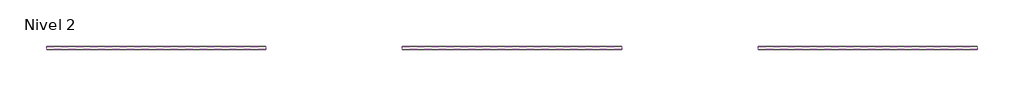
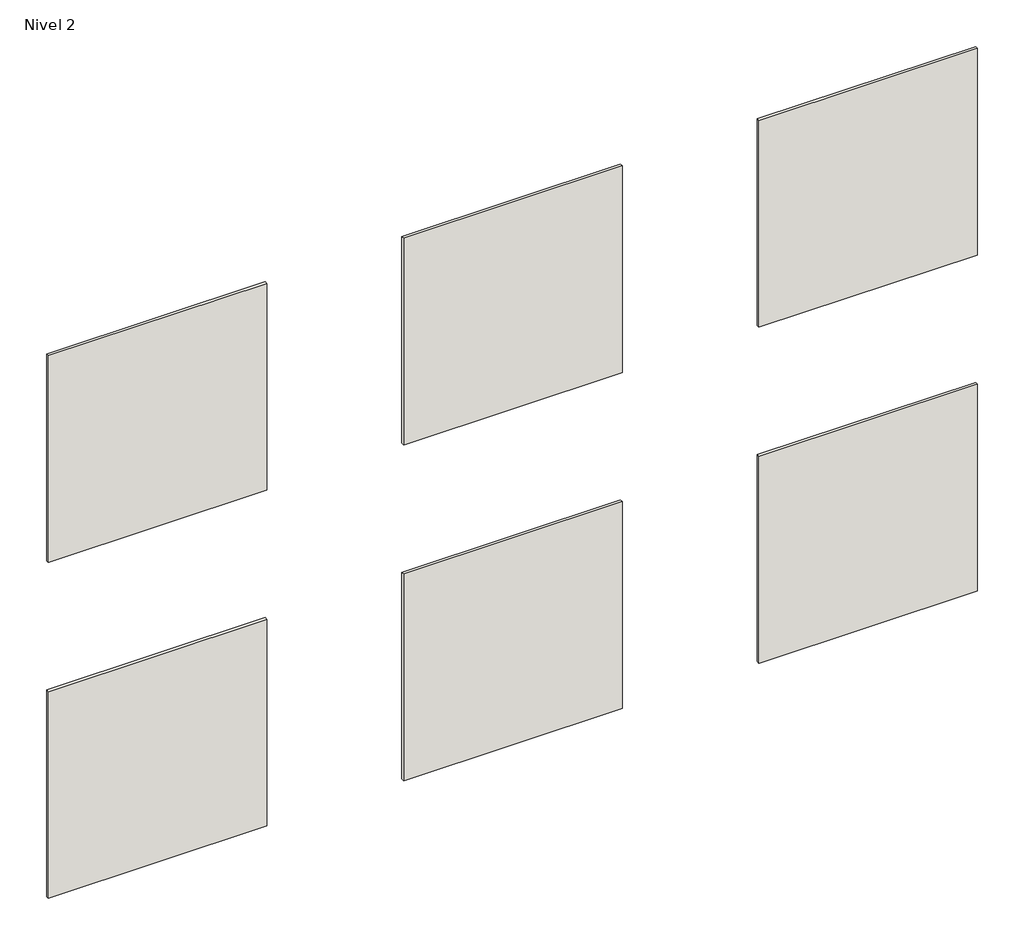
# One storey: 6 walls.
"""IFC4 building model written with IfcOpenShell, lengths in millimetres."""

from ifc_helpers import new_model, si_unit, frame, origin, place, context, project, spatial, polyline, outline, extrude, element, save

model = new_model("IFC4")

# Units and contexts
model_context = context("Model", 3, world=origin())
ifc_project = project(units=[si_unit("LENGTHUNIT", "METRE", prefix="MILLI")], contexts=[model_context])

# Site, building, storey
site = spatial("IfcSite", under=ifc_project)
building = spatial("IfcBuilding", under=site)
storey = spatial("IfcBuildingStorey", under=building, Name="Nivel 2", Elevation=3000.0)

# Walls
placement = place(None, origin())
element("IfcWall", 1, ObjectType="VIVES LAVERTON-R ARENA 80x80", at=placement, inside=storey, context=model_context, shape_type="SweptSolid", body=[
    extrude(outline(polyline([(16688.40579, 611.1723362), (15888.40579, 611.1723362), (15888.40579, 622.1723362), (16688.40579, 622.1723362), (16688.40579, 611.1723362)])), frame((0.0, 0.0, 4333.2265159), z_axis=(0.0, 0.0, 1.0), x_axis=(1.0, 0.0, 0.0)), (0.0, 0.0, 1.0), 800.0),
])
element("IfcWall", 2, ObjectType="VIVES LAVERTON-R NIEVE 80x80", at=placement, inside=storey, context=model_context, shape_type="SweptSolid", body=[
    extrude(outline(polyline([(17988.40579, 611.1723362), (17188.40579, 611.1723362), (17188.40579, 622.1723362), (17988.40579, 622.1723362), (17988.40579, 611.1723362)])), frame((0.0, 0.0, 4333.2265159), z_axis=(0.0, 0.0, 1.0), x_axis=(1.0, 0.0, 0.0)), (0.0, 0.0, 1.0), 800.0),
])
element("IfcWall", 3, ObjectType="VIVES LAVERTON-R BEIGE 80x80", at=placement, inside=storey, context=model_context, shape_type="SweptSolid", body=[
    extrude(outline(polyline([(19288.40579, 611.1723362), (18488.40579, 611.1723362), (18488.40579, 622.1723362), (19288.40579, 622.1723362), (19288.40579, 611.1723362)])), frame((0.0, 0.0, 4333.2265159), z_axis=(0.0, 0.0, 1.0), x_axis=(1.0, 0.0, 0.0)), (0.0, 0.0, 1.0), 800.0),
])
element("IfcWall", 4, ObjectType="VIVES LAVERTON-R GRIS 80x80", at=placement, inside=storey, context=model_context, shape_type="SweptSolid", body=[
    extrude(outline(polyline([(16688.40579, 611.1723362), (15888.40579, 611.1723362), (15888.40579, 622.1723362), (16688.40579, 622.1723362), (16688.40579, 611.1723362)])), frame((0.0, 0.0, 3033.2265159), z_axis=(0.0, 0.0, 1.0), x_axis=(1.0, 0.0, 0.0)), (0.0, 0.0, 1.0), 800.0),
])
element("IfcWall", 5, ObjectType="VIVES LAVERTON-R NATURAL 80x80", at=placement, inside=storey, context=model_context, shape_type="SweptSolid", body=[
    extrude(outline(polyline([(17988.40579, 611.1723362), (17188.40579, 611.1723362), (17188.40579, 622.1723362), (17988.40579, 622.1723362), (17988.40579, 611.1723362)])), frame((0.0, 0.0, 3033.2265159), z_axis=(0.0, 0.0, 1.0), x_axis=(1.0, 0.0, 0.0)), (0.0, 0.0, 1.0), 800.0),
])
element("IfcWall", 6, ObjectType="VIVES LAVERTON-R GRAFITO 80x80", at=placement, inside=storey, context=model_context, shape_type="SweptSolid", body=[
    extrude(outline(polyline([(19288.40579, 611.1723362), (18488.40579, 611.1723362), (18488.40579, 622.1723362), (19288.40579, 622.1723362), (19288.40579, 611.1723362)])), frame((0.0, 0.0, 3033.2265159), z_axis=(0.0, 0.0, 1.0), x_axis=(1.0, 0.0, 0.0)), (0.0, 0.0, 1.0), 800.0),
])

save(model, "model.ifc")
